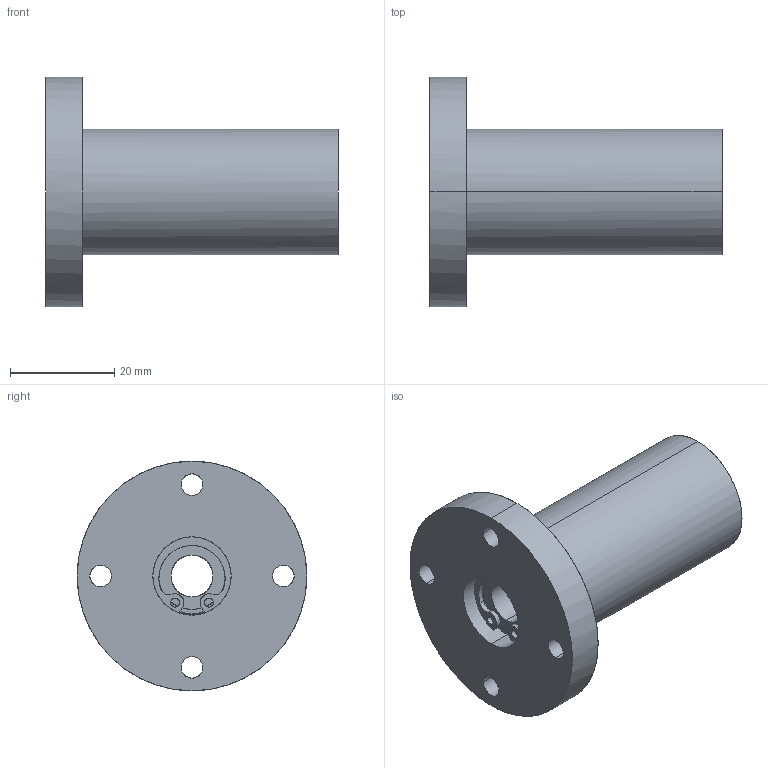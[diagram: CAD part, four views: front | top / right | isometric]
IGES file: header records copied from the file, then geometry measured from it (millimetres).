
Global section: file name: No Iges File Name specified; native system: AutoDesk Inventor R10; preprocessor: AutoDesk Inventor Iges Exporter R10; author: No Author specified; organization: No Organization specified; date: 20101214.134435; units: millimetre
Bounding box: 56 x 44 x 44 mm (x, y, z)
Surface area: 10490.4 mm2 (no closed solid volume)
Topology: 0 solids, 0 shells, 111 faces, 824 edges, 824 vertices
Faces by surface type: bspline 111
